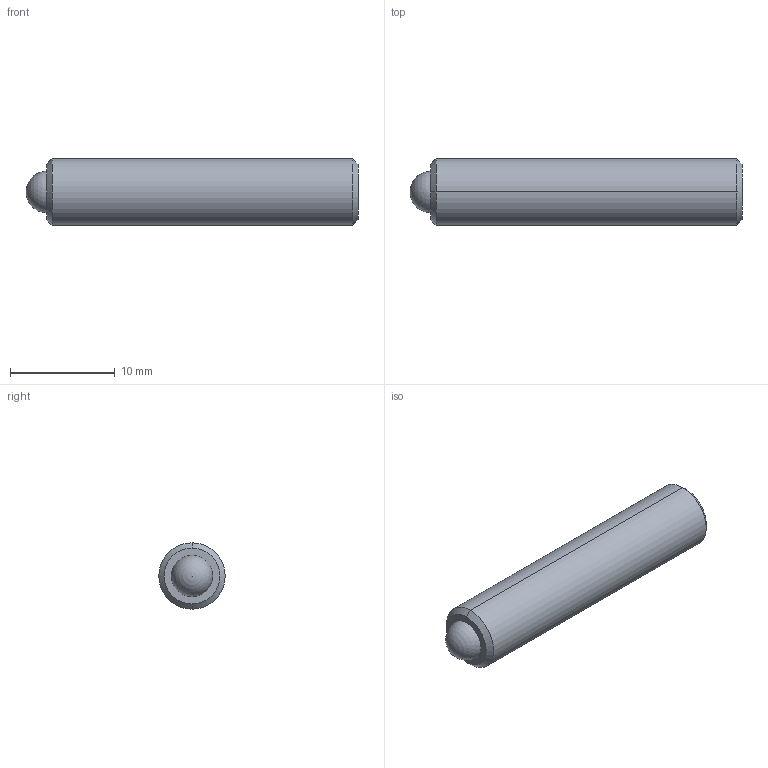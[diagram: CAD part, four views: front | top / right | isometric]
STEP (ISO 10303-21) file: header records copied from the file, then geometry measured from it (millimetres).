
FILE_DESCRIPTION (( 'STEP AP214' ), '1' );
FILE_NAME ('TS250-100-1250.STEP', '2013-02-11T23:17:31', ( 'workpc' ), ( 'Microsoft' ), 'SwSTEP 2.0', 'SolidWorks 2013', '' );
FILE_SCHEMA (( 'AUTOMOTIVE_DESIGN' ));
Length unit declared in the file: inch
Products named in the file (1): TS250-100-1250
Bounding box: 31.75 x 6.35 x 6.35 mm (x, y, z)
Volume: 934.8 mm3; surface area: 737.6 mm2
Topology: 2 solids, 2 shells, 20 faces, 45 edges, 29 vertices
Faces by surface type: plane 10, cylinder 4, cone 4, sphere 2
Entity records: 599 total; most frequent: DIRECTION 96, CARTESIAN_POINT 87, ORIENTED_EDGE 80, EDGE_CURVE 40, AXIS2_PLACEMENT_3D 35, VECTOR 26, LINE 26, VERTEX_POINT 26
